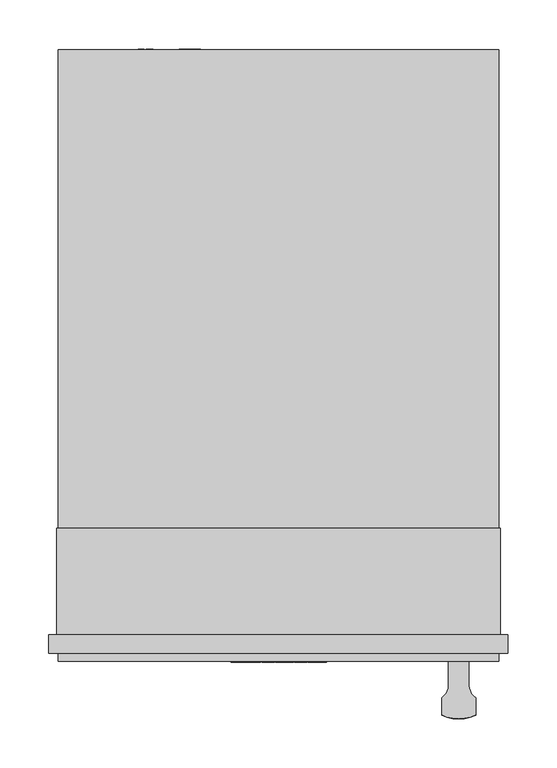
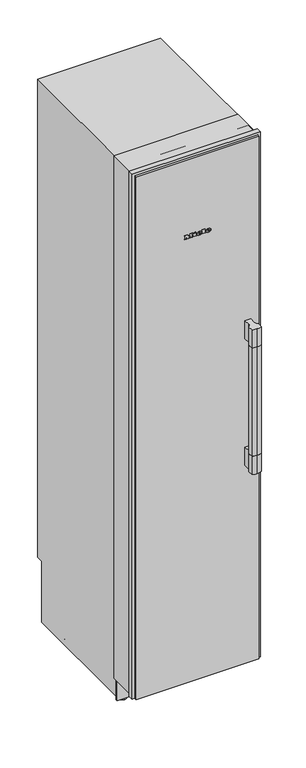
"""IFC4 building model written with IfcOpenShell, lengths in millimetres: proxy geometry, 11503310_USA_F2412SF : 37241211_USA_11503310_F2412SF."""

from ifc_helpers import new_model, si_unit, point, frame, frame_2d, origin, place, context, project, spatial, polyline, circle_curve, ellipse_curve, trimmed, segment, composite_curve, outline, extrude, faceted_brep, source, transform, mapped, element, save
from ifc_brep_helpers import plane_surface, cylinder_surface, revolved_surface, extruded_surface, advanced_brep


def specialty_equipment_9d6fc806(model_context):
    return source(origin(), model_context, "Body", "SolidModel", [
        extrude(outline(polyline([(-214.5, 68.0), (214.5, 68.0), (214.5, 21.0), (-214.5, 21.0), (-214.5, 68.0)])), frame((0.0, 0.0, 265.0), z_axis=(0.0, 0.0, 1.0), x_axis=(1.0, 0.0, 0.0)), (0.0, 0.0, 1.0), 1771.0),
        extrude(outline(polyline([(-61.0, 50.0), (61.0, 50.0), (61.0, 21.0), (-61.0, 21.0), (-61.0, 50.0)])), frame((0.0, 0.0, 2036.0), z_axis=(0.0, 0.0, 1.0), x_axis=(1.0, 0.0, 0.0)), (0.0, 0.0, 1.0), 56.0),
        extrude(outline(polyline([(265.0, 21.0), (265.0, 0.0), (265.0, -21.0), (224.0, -21.0), (224.0, -6.5), (99.0, -6.5), (99.0, 0.0), (99.0, 6.5), (224.0, 6.5), (224.0, 21.0), (265.0, 21.0)])), frame((0.0, 21.0, 0.0), z_axis=(0.0, 1.0, 0.0), x_axis=(0.0, 0.0, 1.0)), (0.0, 0.0, 1.0), 54.0),
        extrude(outline(composite_curve([segment(trimmed(circle_curve(frame_2d((158.4285714, -24.4390599)), 15.5714286), [point((167.0, -37.4390599))], [point((174.0, -24.4390599))], True, "CARTESIAN"), True, "CONTINUOUS"), segment(polyline([(174.0, -24.4390599), (174.0, 0.0), (195.0, 0.0), (195.0, -24.4390599)]), True, "CONTINUOUS"), segment(trimmed(circle_curve(frame_2d((210.5714286, -24.4390599)), 15.5714286), [point((195.0, -24.4390599))], [point((202.0, -37.4390599))], True, "CARTESIAN"), True, "CONTINUOUS"), segment(polyline([(202.0, -37.4390599), (202.0, -55.0)]), True, "CONTINUOUS"), segment(trimmed(circle_curve(frame_2d((184.5, -18.71875)), 40.28125), [point((202.0, -55.0))], [point((184.5, -59.0))], False, "CARTESIAN"), True, "CONTINUOUS"), segment(trimmed(circle_curve(frame_2d((184.5, -18.71875)), 40.28125), [point((184.5, -59.0))], [point((167.0, -55.0))], False, "CARTESIAN"), True, "CONTINUOUS"), segment(polyline([(167.0, -55.0), (167.0, -37.4390599)]), True, "CONTINUOUS")], self_intersect=False)), frame((0.0, 0.0, 858.0), z_axis=(0.0, 0.0, 1.0), x_axis=(1.0, 0.0, 0.0)), (0.0, 0.0, 1.0), 70.0),
        extrude(outline(composite_curve([segment(trimmed(circle_curve(frame_2d((158.4285714, -24.4390599)), 15.5714286), [point((167.0, -37.4390599))], [point((174.0, -24.4390599))], True, "CARTESIAN"), True, "CONTINUOUS"), segment(polyline([(174.0, -24.4390599), (174.0, 0.0), (195.0, 0.0), (195.0, -24.4390599)]), True, "CONTINUOUS"), segment(trimmed(circle_curve(frame_2d((210.5714286, -24.4390599)), 15.5714286), [point((195.0, -24.4390599))], [point((202.0, -37.4390599))], True, "CARTESIAN"), True, "CONTINUOUS"), segment(polyline([(202.0, -37.4390599), (202.0, -55.0)]), True, "CONTINUOUS"), segment(trimmed(circle_curve(frame_2d((184.5, -18.71875)), 40.28125), [point((202.0, -55.0))], [point((184.5, -59.0))], False, "CARTESIAN"), True, "CONTINUOUS"), segment(trimmed(circle_curve(frame_2d((184.5, -18.71875)), 40.28125), [point((184.5, -59.0))], [point((167.0, -55.0))], False, "CARTESIAN"), True, "CONTINUOUS"), segment(polyline([(167.0, -55.0), (167.0, -37.4390599)]), True, "CONTINUOUS")], self_intersect=False)), frame((0.0, 0.0, 1348.0), z_axis=(0.0, 0.0, 1.0), x_axis=(1.0, 0.0, 0.0)), (0.0, 0.0, 1.0), 70.0),
        extrude(outline(composite_curve([segment(trimmed(circle_curve(frame_2d((158.4285714, -24.4390599)), 15.5714286), [point((167.0, -37.4390599))], [point((168.8599688, -36.0))], True, "CARTESIAN"), True, "CONTINUOUS"), segment(polyline([(168.8599688, -36.0), (200.1400312, -36.0)]), True, "CONTINUOUS"), segment(trimmed(circle_curve(frame_2d((210.5714286, -24.4390599)), 15.5714286), [point((200.1400312, -36.0))], [point((202.0, -37.4390599))], True, "CARTESIAN"), True, "CONTINUOUS"), segment(polyline([(202.0, -37.4390599), (202.0, -55.0)]), True, "CONTINUOUS"), segment(trimmed(circle_curve(frame_2d((184.5, -18.71875)), 40.28125), [point((202.0, -55.0))], [point((184.5, -59.0))], False, "CARTESIAN"), True, "CONTINUOUS"), segment(trimmed(circle_curve(frame_2d((184.5, -18.71875)), 40.28125), [point((184.5, -59.0))], [point((167.0, -55.0))], False, "CARTESIAN"), True, "CONTINUOUS"), segment(polyline([(167.0, -55.0), (167.0, -37.4390599)]), True, "CONTINUOUS")], self_intersect=False)), frame((0.0, 0.0, 928.0), z_axis=(0.0, 0.0, 1.0), x_axis=(1.0, 0.0, 0.0)), (0.0, 0.0, 1.0), 420.0),
        extrude(outline(polyline([(-225.5, 21.0), (225.5, 21.0), (225.5, 0.0), (-225.5, 0.0), (-225.5, 21.0)])), frame((0.0, 0.0, 90.0), z_axis=(0.0, 0.0, 1.0), x_axis=(1.0, 0.0, 0.0)), (0.0, 0.0, 1.0), 2023.0),
        advanced_brep(
        [(38.22, -1.0, 1812.792), (38.22, -1.0, 1814.408), (48.924, -1.0, 1814.408), (30.3, -1.0, 1814.408), (34.7, -1.0, 1809.0), (48.652, -1.0, 1812.792), (43.82, -1.0, 1812.792), (40.012, -1.0, 1811.0), (38.22, -1.0, 1816.456), (38.22, -1.0, 1818.2), (40.956, -1.0, 1818.2), (40.956, -1.0, 1816.456), (38.22, 0.0, 1812.792), (40.012, 0.0, 1811.0), (43.82, 0.0, 1812.792), (48.652, 0.0, 1812.792), (34.7, 0.0, 1809.0), (30.3, 0.0, 1814.408), (48.924, 0.0, 1814.408), (38.22, 0.0, 1814.408), (38.22, 0.0, 1816.456), (40.956, 0.0, 1816.456), (40.956, 0.0, 1818.2), (38.22, 0.0, 1818.2)],
        [
            (0, 1),
            (1, 2),
            (2, 3, ellipse_curve(frame((39.612, -1.0, 1814.408), z_axis=(0.0, -1.0, 0.0), x_axis=(-1.0, 0.0, 0.0)), 9.312, 7.696)),
            (3, 4, circle_curve(frame((36.4920873, -1.0, 1814.952), z_axis=(0.0, -1.0, 0.0), x_axis=(0.0, 0.0, -1.0)), 6.2159376)),
            (4, 5, circle_curve(frame((39.4255872, -1.0, 1819.176), z_axis=(0.0, -1.0, 0.0), x_axis=(0.0, 0.0, -1.0)), 11.2197215)),
            (5, 6),
            (6, 7, circle_curve(frame((40.7941176, -1.0, 1814.28), z_axis=(0.0, 1.0, 0.0), x_axis=(0.0, 0.0, -1.0)), 3.3719591)),
            (7, 0, circle_curve(frame((40.012, -1.0, 1812.792), z_axis=(0.0, 1.0, 0.0), x_axis=(0.0, 0.0, -1.0)), 1.792)),
            (8, 9),
            (9, 10, circle_curve(frame((39.588, -1.0, 1818.2), z_axis=(0.0, 1.0, 0.0), x_axis=(0.0, 0.0, -1.0)), 1.368)),
            (10, 11),
            (11, 8),
            (12, 13, circle_curve(frame((40.012, 0.0, 1812.792), z_axis=(0.0, -1.0, 0.0), x_axis=(0.0, 0.0, -1.0)), 1.792)),
            (13, 14, circle_curve(frame((40.7941176, 0.0, 1814.28), z_axis=(0.0, -1.0, 0.0), x_axis=(0.0, 0.0, -1.0)), 3.3719591)),
            (14, 15),
            (15, 16, circle_curve(frame((39.4255872, 0.0, 1819.176), z_axis=(0.0, 1.0, 0.0), x_axis=(0.0, 0.0, -1.0)), 11.2197215)),
            (16, 17, circle_curve(frame((36.4920873, 0.0, 1814.952), z_axis=(0.0, 1.0, 0.0), x_axis=(0.0, 0.0, -1.0)), 6.2159376)),
            (17, 18, ellipse_curve(frame((39.612, 0.0, 1814.408), z_axis=(0.0, 1.0, 0.0), x_axis=(-1.0, 0.0, 0.0)), 9.312, 7.696)),
            (18, 19),
            (19, 12),
            (20, 21),
            (21, 22),
            (22, 23, circle_curve(frame((39.588, 0.0, 1818.2), z_axis=(0.0, -1.0, 0.0), x_axis=(0.0, 0.0, -1.0)), 1.368)),
            (23, 20),
            (0, 12),
            (19, 1),
            (18, 2),
            (5, 15),
            (14, 6),
            (17, 3),
            (13, 7),
            (16, 4),
            (8, 20),
            (23, 9),
            (22, 10),
            (21, 11),
        ],
        [
            plane_surface(frame((38.22, -1.0, 1814.408), z_axis=(0.0, -1.0, 0.0), x_axis=(0.0, 0.0, 1.0))),
            plane_surface(frame((38.22, 0.0, 1814.408), z_axis=(0.0, 1.0, 0.0), x_axis=(0.0, 0.0, -1.0))),
            plane_surface(frame((38.22, -1.0, 1812.792), z_axis=(1.0, 0.0, 0.0), x_axis=(0.0, 1.0, 0.0))),
            plane_surface(frame((38.22, -1.0, 1814.408), z_axis=(0.0, 0.0, -1.0), x_axis=(0.0, 1.0, 0.0))),
            plane_surface(frame((48.652, -1.0, 1812.792), z_axis=(0.0, 0.0, 1.0), x_axis=(0.0, 1.0, 0.0))),
            extruded_surface(trimmed(ellipse_curve(frame((39.612, 1.0, 1814.408), z_axis=(0.0, -1.0, 0.0), x_axis=(-1.0, 0.0, 0.0)), 9.312, 7.696), [point((48.924, 1.0, 1814.408))], [point((30.3, 1.0, 1814.408))], True, "CARTESIAN"), (0.0, -1.0, 0.0), 1.0),
            revolved_surface(polyline([(40.7941176, 0.0, 1810.9080409), (40.7941176, -1.0, 1810.9080409)]), (40.7941176, 0.0, 1814.28), (0.0, 1.0, 0.0)),
            revolved_surface(polyline([(40.012, 0.0, 1811.0), (40.012, -1.0, 1811.0)]), (40.012, 0.0, 1812.792), (0.0, 1.0, 0.0)),
            cylinder_surface(frame((36.4920873, 0.0, 1814.952), z_axis=(0.0, -1.0, 0.0), x_axis=(0.0, 0.0, -1.0)), 6.2159376),
            cylinder_surface(frame((39.4255872, 0.0, 1819.176), z_axis=(0.0, -1.0, 0.0), x_axis=(0.0, 0.0, -1.0)), 11.2197215),
            plane_surface(frame((38.22, -1.0, 1816.456), z_axis=(1.0, 0.0, 0.0), x_axis=(0.0, 1.0, 0.0))),
            revolved_surface(polyline([(39.588, 0.0, 1816.832), (39.588, -1.0, 1816.832)]), (39.588, 0.0, 1818.2), (0.0, 1.0, 0.0)),
            plane_surface(frame((40.956, -1.0, 1818.2), z_axis=(-1.0, 0.0, 0.0), x_axis=(0.0, 1.0, 0.0))),
            plane_surface(frame((40.956, -1.0, 1816.456), z_axis=(0.0, 0.0, 1.0), x_axis=(0.0, 1.0, 0.0))),
        ],
        [
            (0, [[1, 2, 3, 4, 5, 6, 7, 8], [9, 10, 11, 12]]),
            (1, [[13, 14, 15, 16, 17, 18, 19, 20], [21, 22, 23, 24]]),
            (2, [[-1, 25, -20, 26]]),
            (3, [[-2, -26, -19, 27]]),
            (4, [[-6, 28, -15, 29]]),
            (5, [[-3, -27, -18, 30]]),
            (6, [[-7, -29, -14, 31]]),
            (7, [[-8, -31, -13, -25]]),
            (8, [[-4, -30, -17, 32]]),
            (9, [[-5, -32, -16, -28]]),
            (10, [[-9, 33, -24, 34]]),
            (11, [[-10, -34, -23, 35]]),
            (12, [[-11, -35, -22, 36]]),
            (13, [[-12, -36, -21, -33]]),
        ],
    ),
        advanced_brep(
        [(4.828, -1.0, 1812.792), (4.828, -1.0, 1814.408), (15.532, -1.0, 1814.408), (-3.092, -1.0, 1814.408), (1.308, -1.0, 1809.0), (15.26, -1.0, 1812.792), (10.428, -1.0, 1812.792), (6.62, -1.0, 1811.0), (4.828, -1.0, 1816.456), (4.828, -1.0, 1818.2), (7.564, -1.0, 1818.2), (7.564, -1.0, 1816.456), (4.828, 0.0, 1812.792), (6.62, 0.0, 1811.0), (10.428, 0.0, 1812.792), (15.26, 0.0, 1812.792), (1.308, 0.0, 1809.0), (-3.092, 0.0, 1814.408), (15.532, 0.0, 1814.408), (4.828, 0.0, 1814.408), (4.828, 0.0, 1816.456), (7.564, 0.0, 1816.456), (7.564, 0.0, 1818.2), (4.828, 0.0, 1818.2)],
        [
            (0, 1),
            (1, 2),
            (2, 3, ellipse_curve(frame((6.22, -1.0, 1814.408), z_axis=(0.0, -1.0, 0.0), x_axis=(-1.0, 0.0, 0.0)), 9.312, 7.696)),
            (3, 4, circle_curve(frame((3.1000873, -1.0, 1814.952), z_axis=(0.0, -1.0, 0.0), x_axis=(0.0, 0.0, -1.0)), 6.2159376)),
            (4, 5, circle_curve(frame((6.0335872, -1.0, 1819.176), z_axis=(0.0, -1.0, 0.0), x_axis=(0.0, 0.0, -1.0)), 11.2197215)),
            (5, 6),
            (6, 7, circle_curve(frame((7.4021176, -1.0, 1814.28), z_axis=(0.0, 1.0, 0.0), x_axis=(0.0, 0.0, -1.0)), 3.3719591)),
            (7, 0, circle_curve(frame((6.62, -1.0, 1812.792), z_axis=(0.0, 1.0, 0.0), x_axis=(0.0, 0.0, -1.0)), 1.792)),
            (8, 9),
            (9, 10, circle_curve(frame((6.196, -1.0, 1818.2), z_axis=(0.0, 1.0, 0.0), x_axis=(0.0, 0.0, -1.0)), 1.368)),
            (10, 11),
            (11, 8),
            (12, 13, circle_curve(frame((6.62, 0.0, 1812.792), z_axis=(0.0, -1.0, 0.0), x_axis=(0.0, 0.0, -1.0)), 1.792)),
            (13, 14, circle_curve(frame((7.4021176, 0.0, 1814.28), z_axis=(0.0, -1.0, 0.0), x_axis=(0.0, 0.0, -1.0)), 3.3719591)),
            (14, 15),
            (15, 16, circle_curve(frame((6.0335872, 0.0, 1819.176), z_axis=(0.0, 1.0, 0.0), x_axis=(0.0, 0.0, -1.0)), 11.2197215)),
            (16, 17, circle_curve(frame((3.1000873, 0.0, 1814.952), z_axis=(0.0, 1.0, 0.0), x_axis=(0.0, 0.0, -1.0)), 6.2159376)),
            (17, 18, ellipse_curve(frame((6.22, 0.0, 1814.408), z_axis=(0.0, 1.0, 0.0), x_axis=(-1.0, 0.0, 0.0)), 9.312, 7.696)),
            (18, 19),
            (19, 12),
            (20, 21),
            (21, 22),
            (22, 23, circle_curve(frame((6.196, 0.0, 1818.2), z_axis=(0.0, -1.0, 0.0), x_axis=(0.0, 0.0, -1.0)), 1.368)),
            (23, 20),
            (0, 12),
            (19, 1),
            (18, 2),
            (5, 15),
            (14, 6),
            (17, 3),
            (13, 7),
            (16, 4),
            (8, 20),
            (23, 9),
            (22, 10),
            (21, 11),
        ],
        [
            plane_surface(frame((4.828, -1.0, 1814.408), z_axis=(0.0, -1.0, 0.0), x_axis=(0.0, 0.0, 1.0))),
            plane_surface(frame((4.828, 0.0, 1814.408), z_axis=(0.0, 1.0, 0.0), x_axis=(0.0, 0.0, -1.0))),
            plane_surface(frame((4.828, -1.0, 1812.792), z_axis=(1.0, 0.0, 0.0), x_axis=(0.0, 1.0, 0.0))),
            plane_surface(frame((4.828, -1.0, 1814.408), z_axis=(0.0, 0.0, -1.0), x_axis=(0.0, 1.0, 0.0))),
            plane_surface(frame((15.26, -1.0, 1812.792), z_axis=(0.0, 0.0, 1.0), x_axis=(0.0, 1.0, 0.0))),
            extruded_surface(trimmed(ellipse_curve(frame((6.22, 1.0, 1814.408), z_axis=(0.0, -1.0, 0.0), x_axis=(-1.0, 0.0, 0.0)), 9.312, 7.696), [point((15.532, 1.0, 1814.408))], [point((-3.092, 1.0, 1814.408))], True, "CARTESIAN"), (0.0, -1.0, 0.0), 1.0),
            revolved_surface(polyline([(7.4021176, 0.0, 1810.9080409), (7.4021176, -1.0, 1810.9080409)]), (7.4021176, 0.0, 1814.28), (0.0, 1.0, 0.0)),
            revolved_surface(polyline([(6.62, 0.0, 1811.0), (6.62, -1.0, 1811.0)]), (6.62, 0.0, 1812.792), (0.0, 1.0, 0.0)),
            cylinder_surface(frame((3.1000873, 0.0, 1814.952), z_axis=(0.0, -1.0, 0.0), x_axis=(0.0, 0.0, -1.0)), 6.2159376),
            cylinder_surface(frame((6.0335872, 0.0, 1819.176), z_axis=(0.0, -1.0, 0.0), x_axis=(0.0, 0.0, -1.0)), 11.2197215),
            plane_surface(frame((4.828, -1.0, 1816.456), z_axis=(1.0, 0.0, 0.0), x_axis=(0.0, 1.0, 0.0))),
            revolved_surface(polyline([(6.196, 0.0, 1816.832), (6.196, -1.0, 1816.832)]), (6.196, 0.0, 1818.2), (0.0, 1.0, 0.0)),
            plane_surface(frame((7.564, -1.0, 1818.2), z_axis=(-1.0, 0.0, 0.0), x_axis=(0.0, 1.0, 0.0))),
            plane_surface(frame((7.564, -1.0, 1816.456), z_axis=(0.0, 0.0, 1.0), x_axis=(0.0, 1.0, 0.0))),
        ],
        [
            (0, [[1, 2, 3, 4, 5, 6, 7, 8], [9, 10, 11, 12]]),
            (1, [[13, 14, 15, 16, 17, 18, 19, 20], [21, 22, 23, 24]]),
            (2, [[-1, 25, -20, 26]]),
            (3, [[-2, -26, -19, 27]]),
            (4, [[-6, 28, -15, 29]]),
            (5, [[-3, -27, -18, 30]]),
            (6, [[-7, -29, -14, 31]]),
            (7, [[-8, -31, -13, -25]]),
            (8, [[-4, -30, -17, 32]]),
            (9, [[-5, -32, -16, -28]]),
            (10, [[-9, 33, -24, 34]]),
            (11, [[-10, -34, -23, 35]]),
            (12, [[-11, -35, -22, 36]]),
            (13, [[-12, -36, -21, -33]]),
        ],
    ),
        extrude(outline(polyline([(1824.056, -12.66), (1821.464, -11.444), (1823.992, -6.02), (1826.584, -7.22), (1824.056, -12.66)])), frame((0.0, -1.0, 0.0), z_axis=(0.0, 1.0, 0.0), x_axis=(0.0, 0.0, 1.0)), (0.0, 0.0, 1.0), 1.0),
        extrude(outline(polyline([(1821.112, -16.612), (1818.248, -16.612), (1818.248, -14.708), (1811.688, -14.708), (1811.688, -16.612), (1809.0, -16.612), (1809.0, -3.988), (1811.688, -3.988), (1811.688, -5.844), (1821.112, -5.844), (1821.112, -16.612)])), frame((0.0, -1.0, 0.0), z_axis=(0.0, 1.0, 0.0), x_axis=(0.0, 0.0, 1.0)), (0.0, 0.0, 1.0), 1.0),
        extrude(outline(polyline([(1822.392, 16.428), (1822.392, 18.348), (1811.688, 18.348), (1811.688, 16.428), (1809.0, 16.428), (1809.0, 29.404), (1811.688, 29.404), (1811.688, 27.436), (1825.0, 27.436), (1825.0, 16.428), (1822.392, 16.428)])), frame((0.0, -1.0, 0.0), z_axis=(0.0, 1.0, 0.0), x_axis=(0.0, 0.0, 1.0)), (0.0, 0.0, 1.0), 1.0),
        extrude(outline(polyline([(1822.392, -48.5), (1822.392, -46.564), (1811.688, -46.564), (1811.688, -48.5), (1809.0, -48.5), (1809.0, -41.46), (1811.688, -41.46), (1811.688, -43.38), (1818.4431247, -43.38), (1809.0, -36.228), (1818.8152223, -29.044), (1811.688, -29.044), (1811.688, -31.012), (1809.0, -31.012), (1809.0, -18.244), (1811.688, -18.244), (1811.688, -20.276), (1822.392, -20.276), (1822.392, -18.244), (1825.0, -18.244), (1825.0, -27.988), (1819.0, -32.66), (1825.0, -37.348), (1825.0, -48.5), (1822.392, -48.5)])), frame((0.0, -1.0, 0.0), z_axis=(0.0, 1.0, 0.0), x_axis=(0.0, 0.0, 1.0)), (0.0, 0.0, 1.0), 1.0),
        extrude(outline(polyline([(540.0, 1998.0), (540.0, 1791.0), (471.0, 1791.0), (443.0, 1867.0), (222.7448904, 1867.0), (178.0, 1939.0), (108.0, 1949.0), (108.0, 1998.0), (540.0, 1998.0)])), frame((-179.5, 0.0, 0.0), z_axis=(1.0, 0.0, 0.0), x_axis=(0.0, 1.0, 0.0)), (0.0, 0.0, 1.0), 359.0),
        extrude(outline(polyline([(217.9886114, 1875.0), (216.809433, 1875.0), (179.6921935, 1934.4), (180.8713719, 1934.4), (217.9886114, 1875.0)])), frame((-69.0, 0.0, 0.0), z_axis=(1.0, 0.0, 0.0), x_axis=(0.0, 1.0, 0.0)), (0.0, 0.0, 1.0), 138.0),
        extrude(outline(polyline([(46.0510837, -89.101717), (37.4134902, -91.1745179), (46.0453554, -93.6868463), (46.0453554, -95.5601414), (37.4089549, -98.0799633), (46.0493903, -100.1581876), (46.0493903, -101.4649805), (36.0005458, -98.7156324), (36.0005458, -97.372208), (44.8261022, -94.6342221), (35.9987467, -92.0620509), (35.9987287, -90.5451466), (46.0510837, -87.800191), (46.0510837, -89.101717)])), frame((0.0, 625.0, 0.0), z_axis=(0.0, 1.0, 0.0), x_axis=(0.0, 0.0, 1.0)), (0.0, 0.0, 1.0), 1.0),
        extrude(outline(polyline([(46.0485238, -80.7401503), (41.1363122, -80.7401503), (46.0468162, -85.884602), (46.0468162, -87.6328316), (41.9156889, -83.3260313), (36.000035, -87.8032231), (36.000035, -86.2795519), (41.0742849, -82.4391666), (39.4525334, -80.7395503), (35.9999292, -80.7395503), (35.9999292, -79.4795491), (46.0485238, -79.4795491), (46.0485238, -80.7401503)])), frame((0.0, 625.0, 0.0), z_axis=(0.0, 1.0, 0.0), x_axis=(0.0, 0.0, 1.0)), (0.0, 0.0, 1.0), 1.0),
        extrude(outline(composite_curve([segment(trimmed(circle_curve(frame_2d((41.0, -90.0)), 7.5), [point((33.5, -90.0))], [point((48.5, -90.0))], False, "CARTESIAN"), True, "CONTINUOUS"), segment(trimmed(circle_curve(frame_2d((41.0, -90.0)), 7.5), [point((48.5, -90.0))], [point((33.5, -90.0))], False, "CARTESIAN"), True, "CONTINUOUS")], self_intersect=False)), frame((0.0, 598.0, 0.0), z_axis=(0.0, 1.0, 0.0), x_axis=(0.0, 0.0, 1.0)), (0.0, 0.0, 1.0), 27.0),
        extrude(outline(polyline([(2095.0, -219.0), (2047.0, -219.0), (2047.0, -185.0), (2036.5, -185.0), (2036.5, -70.0), (2047.0, -70.0), (2047.0, -64.0), (2095.0, -64.0), (2095.0, -219.0)])), frame((0.0, 21.0, 0.0), z_axis=(0.0, 1.0, 0.0), x_axis=(0.0, 0.0, 1.0)), (0.0, 0.0, 1.0), 47.0),
        extrude(outline(polyline([(254.0, -219.0), (206.0, -219.0), (206.0, -64.0), (254.0, -64.0), (254.0, -70.0), (264.0, -70.0), (264.0, -185.0), (254.0, -185.0), (254.0, -219.0)])), frame((0.0, 21.0, 0.0), z_axis=(0.0, 1.0, 0.0), x_axis=(0.0, 0.0, 1.0)), (0.0, 0.0, 1.0), 54.0),
        extrude(outline(polyline([(99.0373308, -135.2645771), (97.7615342, -135.2645771), (97.7615342, -129.3195541), (94.7968516, -129.3195541), (94.7968516, -134.969579), (93.5246295, -134.969579), (93.5246295, -129.3415693), (90.2570046, -129.3415693), (90.2570046, -135.4619689), (88.9546219, -135.4619689), (88.9546219, -128.0443524), (99.0373308, -128.0443524), (99.0373308, -135.2645771)])), frame((0.0, 625.0, 0.0), z_axis=(0.0, 1.0, 0.0), x_axis=(0.0, 0.0, 1.0)), (0.0, 0.0, 1.0), 1.0),
        extrude(outline(polyline([(99.0458, -138.5619704), (90.2663944, -138.5619704), (90.2663944, -143.6145879), (89.0134802, -143.6145879), (89.0134802, -137.3423809), (99.0458, -137.3423809), (99.0458, -138.5619704)])), frame((0.0, 625.0, 0.0), z_axis=(0.0, 1.0, 0.0), x_axis=(0.0, 0.0, 1.0)), (0.0, 0.0, 1.0), 1.0),
        extrude(outline(composite_curve([segment(trimmed(circle_curve(frame_2d((94.0, -135.5)), 7.5), [point((86.5, -135.5))], [point((101.5, -135.5))], False, "CARTESIAN"), True, "CONTINUOUS"), segment(trimmed(circle_curve(frame_2d((94.0, -135.5)), 7.5), [point((101.5, -135.5))], [point((86.5, -135.5))], False, "CARTESIAN"), True, "CONTINUOUS")], self_intersect=False)), frame((0.0, 598.0, 0.0), z_axis=(0.0, 1.0, 0.0), x_axis=(0.0, 0.0, 1.0)), (0.0, 0.0, 1.0), 27.0),
        extrude(outline(polyline([(-225.5, 125.0), (225.5, 125.0), (225.5, 120.0), (-225.5, 120.0), (-225.5, 125.0)])), frame((0.0, 0.0, 14.0), z_axis=(0.0, 0.0, 1.0), x_axis=(1.0, 0.0, 0.0)), (0.0, 0.0, 1.0), 83.0),
        advanced_brep(
        [(-191.5, 160.0, 0.0), (-191.5, 130.0, 0.0), (-191.5, 160.0, 7.0), (-191.5, 130.0, 7.0), (-191.5, 149.7, 7.0), (-191.5, 140.3, 7.0), (-191.5, 149.7, 28.0), (-191.5, 140.3, 28.0)],
        [
            (0, 1, circle_curve(frame((-191.5, 145.0, 0.0), z_axis=(0.0, 0.0, -1.0), x_axis=(1.0, 0.0, 0.0)), 15.0)),
            (1, 0, circle_curve(frame((-191.5, 145.0, 0.0), z_axis=(0.0, 0.0, -1.0), x_axis=(1.0, 0.0, 0.0)), 15.0)),
            (2, 3, circle_curve(frame((-191.5, 145.0, 7.0), z_axis=(0.0, 0.0, 1.0), x_axis=(1.0, 0.0, 0.0)), 15.0)),
            (3, 2, circle_curve(frame((-191.5, 145.0, 7.0), z_axis=(0.0, 0.0, 1.0), x_axis=(1.0, 0.0, 0.0)), 15.0)),
            (4, 5, circle_curve(frame((-191.5, 145.0, 7.0), z_axis=(0.0, 0.0, -1.0), x_axis=(0.0, -1.0, 0.0)), 4.7)),
            (5, 4, circle_curve(frame((-191.5, 145.0, 7.0), z_axis=(0.0, 0.0, -1.0), x_axis=(0.0, -1.0, 0.0)), 4.7)),
            (0, 2),
            (3, 1),
            (6, 7, circle_curve(frame((-191.5, 145.0, 28.0), z_axis=(0.0, 0.0, 1.0), x_axis=(0.0, -1.0, 0.0)), 4.7)),
            (7, 6, circle_curve(frame((-191.5, 145.0, 28.0), z_axis=(0.0, 0.0, 1.0), x_axis=(0.0, -1.0, 0.0)), 4.7)),
            (7, 5),
            (4, 6),
        ],
        [
            plane_surface(frame((-176.5, 145.0, 0.0), z_axis=(0.0, 0.0, -1.0), x_axis=(0.0, -1.0, 0.0))),
            plane_surface(frame((-176.5, 145.0, 7.0), z_axis=(0.0, 0.0, 1.0), x_axis=(0.0, 1.0, 0.0))),
            cylinder_surface(frame((-191.5, 145.0, 7.0), z_axis=(0.0, 0.0, -1.0), x_axis=(1.0, 0.0, 0.0)), 15.0),
            plane_surface(frame((-191.5, 140.3, 28.0), z_axis=(0.0, 0.0, 1.0), x_axis=(1.0, 0.0, 0.0))),
            cylinder_surface(frame((-191.5, 145.0, 28.0), z_axis=(0.0, 0.0, -1.0), x_axis=(0.0, -1.0, 0.0)), 4.7),
        ],
        [
            (0, [[1, 2]]),
            (1, [[3, 4], [5, 6]]),
            (2, [[-1, 7, -4, 8]]),
            (2, [[-2, -8, -3, -7]]),
            (3, [[9, 10]]),
            (4, [[-10, 11, -5, 12]]),
            (4, [[-9, -12, -6, -11]]),
        ],
    ),
        advanced_brep(
        [(191.5, 160.0, 0.0), (191.5, 130.0, 0.0), (191.5, 160.0, 7.0), (191.5, 130.0, 7.0), (191.5, 149.7, 7.0), (191.5, 140.3, 7.0), (191.5, 149.7, 28.0), (191.5, 140.3, 28.0)],
        [
            (0, 1, circle_curve(frame((191.5, 145.0, 0.0), z_axis=(0.0, 0.0, -1.0), x_axis=(1.0, 0.0, 0.0)), 15.0)),
            (1, 0, circle_curve(frame((191.5, 145.0, 0.0), z_axis=(0.0, 0.0, -1.0), x_axis=(1.0, 0.0, 0.0)), 15.0)),
            (2, 3, circle_curve(frame((191.5, 145.0, 7.0), z_axis=(0.0, 0.0, 1.0), x_axis=(1.0, 0.0, 0.0)), 15.0)),
            (3, 2, circle_curve(frame((191.5, 145.0, 7.0), z_axis=(0.0, 0.0, 1.0), x_axis=(1.0, 0.0, 0.0)), 15.0)),
            (4, 5, circle_curve(frame((191.5, 145.0, 7.0), z_axis=(0.0, 0.0, -1.0), x_axis=(0.0, -1.0, 0.0)), 4.7)),
            (5, 4, circle_curve(frame((191.5, 145.0, 7.0), z_axis=(0.0, 0.0, -1.0), x_axis=(0.0, -1.0, 0.0)), 4.7)),
            (0, 2),
            (3, 1),
            (6, 7, circle_curve(frame((191.5, 145.0, 28.0), z_axis=(0.0, 0.0, 1.0), x_axis=(0.0, -1.0, 0.0)), 4.7)),
            (7, 6, circle_curve(frame((191.5, 145.0, 28.0), z_axis=(0.0, 0.0, 1.0), x_axis=(0.0, -1.0, 0.0)), 4.7)),
            (7, 5),
            (4, 6),
        ],
        [
            plane_surface(frame((-176.5, 145.0, 0.0), z_axis=(0.0, 0.0, -1.0), x_axis=(0.0, -1.0, 0.0))),
            plane_surface(frame((-176.5, 145.0, 7.0), z_axis=(0.0, 0.0, 1.0), x_axis=(0.0, 1.0, 0.0))),
            cylinder_surface(frame((191.5, 145.0, 7.0), z_axis=(0.0, 0.0, -1.0), x_axis=(1.0, 0.0, 0.0)), 15.0),
            plane_surface(frame((-191.5, 140.3, 28.0), z_axis=(0.0, 0.0, 1.0), x_axis=(1.0, 0.0, 0.0))),
            cylinder_surface(frame((191.5, 145.0, 28.0), z_axis=(0.0, 0.0, -1.0), x_axis=(0.0, -1.0, 0.0)), 4.7),
        ],
        [
            (0, [[1, 2]]),
            (1, [[3, 4], [5, 6]]),
            (2, [[-1, 7, -4, 8]]),
            (2, [[-2, -8, -3, -7]]),
            (3, [[9, 10]]),
            (4, [[-10, 11, -5, 12]]),
            (4, [[-9, -12, -6, -11]]),
        ],
    ),
        advanced_brep(
        [(225.5, 68.0, 2114.0), (225.5, 68.0, 267.0), (225.5, 75.0, 267.0), (225.5, 75.0, 97.0), (225.5, 125.0, 97.0), (225.5, 125.0, 28.0), (225.5, 598.0, 28.0), (225.5, 598.0, 263.0), (225.5, 625.0, 263.0), (225.5, 625.0, 2114.0), (-225.5, 68.0, 2114.0), (-225.5, 625.0, 2114.0), (-225.5, 625.0, 263.0), (-225.5, 598.0, 263.0), (-225.5, 598.0, 28.0), (-225.5, 125.0, 28.0), (-225.5, 125.0, 97.0), (-225.5, 75.0, 97.0), (-225.5, 75.0, 267.0), (-225.5, 68.0, 267.0), (165.5, 598.0, 28.0), (165.5, 598.0, 14.0), (-165.5, 598.0, 14.0), (-165.5, 598.0, 28.0), (165.5, 125.0, 14.0), (-165.5, 125.0, 14.0), (-165.5, 125.0, 28.0), (165.5, 125.0, 28.0), (179.5, 68.0, 1998.0), (179.5, 68.0, 343.0), (-179.5, 68.0, 343.0), (-179.5, 68.0, 1998.0), (179.5, 540.0, 1998.0), (-179.5, 540.0, 1998.0), (-179.5, 540.0, 343.0), (179.5, 540.0, 343.0), (-184.0, 223.8193473, 28.0), (-203.0, 223.8193473, 28.0), (-203.0, 174.1806527, 28.0), (-184.0, 174.1806527, 28.0), (-203.5, 546.8193473, 28.0), (-203.5, 497.1806527, 28.0), (-187.5, 497.1806527, 28.0), (-187.5, 546.8193473, 28.0), (203.0, 174.1806527, 28.0), (203.0, 223.8193473, 28.0), (184.0, 223.8193473, 28.0), (184.0, 174.1806527, 28.0), (187.5, 546.8193473, 28.0), (187.5, 497.1806527, 28.0), (203.5, 497.1806527, 28.0), (203.5, 546.8193473, 28.0), (-184.0, 224.0, 25.0), (-184.0, 174.0, 25.0), (-203.0, 174.0, 25.0), (-203.0, 224.0, 25.0), (-184.0, 199.0, 25.0), (-203.0, 199.0, 25.0), (203.0, 199.0, 25.0), (203.0, 174.0, 25.0), (203.0, 224.0, 25.0), (184.0, 224.0, 25.0), (184.0, 174.0, 25.0), (184.0, 199.0, 25.0), (-203.5, 547.0, 25.0), (-203.5, 497.0, 25.0), (-203.5, 522.0, 25.0), (-187.5, 547.0, 25.0), (-187.5, 497.0, 25.0), (-187.5, 522.0, 25.0), (187.5, 547.0, 25.0), (187.5, 497.0, 25.0), (187.5, 522.0, 25.0), (203.5, 547.0, 25.0), (203.5, 497.0, 25.0), (203.5, 522.0, 25.0)],
        [
            (0, 1),
            (1, 2),
            (2, 3),
            (3, 4),
            (4, 5),
            (5, 6),
            (6, 7),
            (7, 8),
            (8, 9),
            (9, 0),
            (10, 11),
            (11, 12),
            (12, 13),
            (13, 14),
            (14, 15),
            (15, 16),
            (16, 17),
            (17, 18),
            (18, 19),
            (19, 10),
            (9, 11),
            (10, 0),
            (8, 12),
            (7, 13),
            (6, 20),
            (20, 21),
            (21, 22),
            (22, 23),
            (23, 14),
            (21, 24),
            (24, 25),
            (25, 22),
            (4, 16),
            (15, 26),
            (26, 25),
            (24, 27),
            (27, 5),
            (3, 17),
            (2, 18),
            (1, 19),
            (28, 29),
            (29, 30),
            (30, 31),
            (31, 28),
            (32, 33),
            (33, 34),
            (34, 35),
            (35, 32),
            (35, 29),
            (28, 32),
            (34, 30),
            (33, 31),
            (23, 26),
            (36, 37),
            (37, 38),
            (38, 39),
            (39, 36),
            (40, 41),
            (41, 42),
            (42, 43),
            (43, 40),
            (27, 20),
            (44, 45),
            (45, 46),
            (46, 47),
            (47, 44),
            (48, 49),
            (49, 50),
            (50, 51),
            (51, 48),
            (52, 53, circle_curve(frame((-184.0, 199.0, 25.0), z_axis=(-1.0, 0.0, 0.0), x_axis=(0.0, -1.0, 0.0)), 25.0)),
            (53, 54),
            (54, 55, circle_curve(frame((-203.0, 199.0, 25.0), z_axis=(1.0, 0.0, 0.0), x_axis=(0.0, -1.0, 0.0)), 25.0)),
            (55, 52),
            (53, 39, circle_curve(frame((-184.0, 199.0, 25.0), z_axis=(-1.0, 0.0, 0.0), x_axis=(0.0, -1.0, 0.0)), 25.0)),
            (38, 54, circle_curve(frame((-203.0, 199.0, 25.0), z_axis=(1.0, 0.0, 0.0), x_axis=(0.0, -1.0, 0.0)), 25.0)),
            (55, 37, circle_curve(frame((-203.0, 199.0, 25.0), z_axis=(1.0, 0.0, 0.0), x_axis=(0.0, -1.0, 0.0)), 25.0)),
            (36, 52, circle_curve(frame((-184.0, 199.0, 25.0), z_axis=(-1.0, 0.0, 0.0), x_axis=(0.0, -1.0, 0.0)), 25.0)),
            (52, 56),
            (56, 53),
            (54, 57),
            (57, 55),
            (58, 59),
            (59, 60, circle_curve(frame((203.0, 199.0, 25.0), z_axis=(1.0, 0.0, 0.0), x_axis=(0.0, -1.0, 0.0)), 25.0)),
            (60, 58),
            (60, 45, circle_curve(frame((203.0, 199.0, 25.0), z_axis=(1.0, 0.0, 0.0), x_axis=(0.0, -1.0, 0.0)), 25.0)),
            (44, 59, circle_curve(frame((203.0, 199.0, 25.0), z_axis=(1.0, 0.0, 0.0), x_axis=(0.0, -1.0, 0.0)), 25.0)),
            (61, 62, circle_curve(frame((184.0, 199.0, 25.0), z_axis=(-1.0, 0.0, 0.0), x_axis=(0.0, -1.0, 0.0)), 25.0)),
            (62, 63),
            (63, 61),
            (62, 47, circle_curve(frame((184.0, 199.0, 25.0), z_axis=(-1.0, 0.0, 0.0), x_axis=(0.0, -1.0, 0.0)), 25.0)),
            (46, 61, circle_curve(frame((184.0, 199.0, 25.0), z_axis=(-1.0, 0.0, 0.0), x_axis=(0.0, -1.0, 0.0)), 25.0)),
            (64, 65, circle_curve(frame((-203.5, 522.0, 25.0), z_axis=(-1.0, 0.0, 0.0), x_axis=(0.0, -1.0, 0.0)), 25.0)),
            (65, 66),
            (66, 64),
            (65, 41, circle_curve(frame((-203.5, 522.0, 25.0), z_axis=(-1.0, 0.0, 0.0), x_axis=(0.0, -1.0, 0.0)), 25.0)),
            (40, 64, circle_curve(frame((-203.5, 522.0, 25.0), z_axis=(-1.0, 0.0, 0.0), x_axis=(0.0, -1.0, 0.0)), 25.0)),
            (64, 67),
            (67, 68, circle_curve(frame((-187.5, 522.0, 25.0), z_axis=(-1.0, 0.0, 0.0), x_axis=(0.0, -1.0, 0.0)), 25.0)),
            (68, 65),
            (43, 67, circle_curve(frame((-187.5, 522.0, 25.0), z_axis=(-1.0, 0.0, 0.0), x_axis=(0.0, -1.0, 0.0)), 25.0)),
            (68, 42, circle_curve(frame((-187.5, 522.0, 25.0), z_axis=(-1.0, 0.0, 0.0), x_axis=(0.0, -1.0, 0.0)), 25.0)),
            (67, 69),
            (69, 68),
            (70, 71, circle_curve(frame((187.5, 522.0, 25.0), z_axis=(-1.0, 0.0, 0.0), x_axis=(0.0, -1.0, 0.0)), 25.0)),
            (71, 72),
            (72, 70),
            (71, 49, circle_curve(frame((187.5, 522.0, 25.0), z_axis=(-1.0, 0.0, 0.0), x_axis=(0.0, -1.0, 0.0)), 25.0)),
            (48, 70, circle_curve(frame((187.5, 522.0, 25.0), z_axis=(-1.0, 0.0, 0.0), x_axis=(0.0, -1.0, 0.0)), 25.0)),
            (70, 73),
            (73, 74, circle_curve(frame((203.5, 522.0, 25.0), z_axis=(-1.0, 0.0, 0.0), x_axis=(0.0, -1.0, 0.0)), 25.0)),
            (74, 71),
            (51, 73, circle_curve(frame((203.5, 522.0, 25.0), z_axis=(-1.0, 0.0, 0.0), x_axis=(0.0, -1.0, 0.0)), 25.0)),
            (74, 50, circle_curve(frame((203.5, 522.0, 25.0), z_axis=(-1.0, 0.0, 0.0), x_axis=(0.0, -1.0, 0.0)), 25.0)),
            (73, 75),
            (75, 74),
            (59, 62),
            (61, 60),
        ],
        [
            plane_surface(frame((225.5, 625.0, 2114.0), z_axis=(1.0, 0.0, 0.0), x_axis=(0.0, -1.0, 0.0))),
            plane_surface(frame((-225.5, 625.0, 2114.0), z_axis=(-1.0, 0.0, 0.0), x_axis=(0.0, 1.0, 0.0))),
            plane_surface(frame((-225.5, 68.0, 2114.0), z_axis=(0.0, 0.0, 1.0), x_axis=(1.0, 0.0, 0.0))),
            plane_surface(frame((-225.5, 625.0, 2114.0), z_axis=(0.0, 1.0, 0.0), x_axis=(1.0, 0.0, 0.0))),
            plane_surface(frame((-225.5, 625.0, 263.0), z_axis=(0.0, 0.0, -1.0), x_axis=(1.0, 0.0, 0.0))),
            plane_surface(frame((-225.5, 598.0, 263.0), z_axis=(0.0, 1.0, 0.0), x_axis=(1.0, 0.0, 0.0))),
            plane_surface(frame((-225.5, 598.0, 14.0), z_axis=(0.0, 0.0, -1.0), x_axis=(1.0, 0.0, 0.0))),
            plane_surface(frame((-225.5, 125.0, 14.0), z_axis=(0.0, -1.0, 0.0), x_axis=(1.0, 0.0, 0.0))),
            plane_surface(frame((-225.5, 125.0, 97.0), z_axis=(0.0, 0.0, -1.0), x_axis=(1.0, 0.0, 0.0))),
            plane_surface(frame((-225.5, 75.0, 97.0), z_axis=(0.0, -1.0, 0.0), x_axis=(1.0, 0.0, 0.0))),
            plane_surface(frame((-225.5, 75.0, 267.0), z_axis=(0.0, 0.0, -1.0), x_axis=(1.0, 0.0, 0.0))),
            plane_surface(frame((-225.5, 68.0, 267.0), z_axis=(0.0, -1.0, 0.0), x_axis=(1.0, 0.0, 0.0))),
            plane_surface(frame((179.5, 540.0, 1998.0), z_axis=(0.0, -1.0, 0.0), x_axis=(0.0, 0.0, -1.0))),
            plane_surface(frame((179.5, 540.0, 1998.0), z_axis=(-1.0, 0.0, 0.0), x_axis=(0.0, -1.0, 0.0))),
            plane_surface(frame((179.5, 540.0, 343.0), z_axis=(0.0, 0.0, 1.0), x_axis=(0.0, -1.0, 0.0))),
            plane_surface(frame((-179.5, 540.0, 343.0), z_axis=(1.0, 0.0, 0.0), x_axis=(0.0, -1.0, 0.0))),
            plane_surface(frame((-179.5, 540.0, 1998.0), z_axis=(0.0, 0.0, -1.0), x_axis=(0.0, -1.0, 0.0))),
            plane_surface(frame((-225.5, 625.0, 28.0), z_axis=(0.0, 0.0, -1.0), x_axis=(-1.0, 0.0, 0.0))),
            plane_surface(frame((-165.5, 125.0, 28.0), z_axis=(-1.0, 0.0, 0.0), x_axis=(0.0, 0.0, -1.0))),
            plane_surface(frame((165.5, 625.0, 28.0), z_axis=(1.0, 0.0, 0.0), x_axis=(0.0, 0.0, -1.0))),
            cylinder_surface(frame((-318.1988927, 199.0, 25.0), z_axis=(1.0, 0.0, 0.0), x_axis=(0.0, -1.0, 0.0)), 25.0),
            plane_surface(frame((-184.0, 199.0, 25.0), z_axis=(1.0, 0.0, 0.0), x_axis=(0.0, -1.0, 0.0))),
            plane_surface(frame((-203.0, 199.0, 25.0), z_axis=(-1.0, 0.0, 0.0), x_axis=(0.0, -1.0, 0.0))),
            plane_surface(frame((203.0, 199.0, 25.0), z_axis=(1.0, 0.0, 0.0), x_axis=(0.0, -1.0, 0.0))),
            plane_surface(frame((184.0, 199.0, 25.0), z_axis=(-1.0, 0.0, 0.0), x_axis=(0.0, -1.0, 0.0))),
            plane_surface(frame((-203.5, 522.0, 25.0), z_axis=(-1.0, 0.0, 0.0), x_axis=(0.0, -1.0, 0.0))),
            cylinder_surface(frame((-318.1988927, 522.0, 25.0), z_axis=(1.0, 0.0, 0.0), x_axis=(0.0, -1.0, 0.0)), 25.0),
            plane_surface(frame((-187.5, 522.0, 25.0), z_axis=(1.0, 0.0, 0.0), x_axis=(0.0, -1.0, 0.0))),
            plane_surface(frame((187.5, 522.0, 25.0), z_axis=(-1.0, 0.0, 0.0), x_axis=(0.0, -1.0, 0.0))),
            plane_surface(frame((203.5, 522.0, 25.0), z_axis=(1.0, 0.0, 0.0), x_axis=(0.0, -1.0, 0.0))),
        ],
        [
            (0, [[1, 2, 3, 4, 5, 6, 7, 8, 9, 10]]),
            (1, [[11, 12, 13, 14, 15, 16, 17, 18, 19, 20]]),
            (2, [[-10, 21, -11, 22]]),
            (3, [[-9, 23, -12, -21]]),
            (4, [[-8, 24, -13, -23]]),
            (5, [[-24, -7, 25, 26, 27, 28, 29, -14]]),
            (6, [[-27, 30, 31, 32]]),
            (7, [[33, -16, 34, 35, -31, 36, 37, -5]]),
            (8, [[-4, 38, -17, -33]]),
            (9, [[-3, 39, -18, -38]]),
            (10, [[-2, 40, -19, -39]]),
            (11, [[-1, -22, -20, -40], [41, 42, 43, 44]]),
            (12, [[45, 46, 47, 48]]),
            (13, [[-48, 49, -41, 50]]),
            (14, [[-47, 51, -42, -49]]),
            (15, [[-46, 52, -43, -51]]),
            (16, [[-45, -50, -44, -52]]),
            (17, [[53, -34, -15, -29], [54, 55, 56, 57], [58, 59, 60, 61]]),
            (17, [[62, -25, -6, -37], [63, 64, 65, 66], [67, 68, 69, 70]]),
            (18, [[-53, -28, -32, -35]]),
            (19, [[-62, -36, -30, -26]]),
            (20, [[71, 72, 73, 74]]),
            (20, [[-72, 75, -56, 76]]),
            (20, [[-74, 77, -54, 78]]),
            (21, [[-71, 79, 80]]),
            (21, [[-80, -79, -78, -57, -75]]),
            (22, [[-73, 81, 82]]),
            (22, [[-81, -76, -55, -77, -82]]),
            (23, [[83, 84, 85]]),
            (23, [[-83, -85, 86, -63, 87]]),
            (24, [[88, 89, 90]]),
            (24, [[-89, 91, -65, 92, -90]]),
            (25, [[93, 94, 95]]),
            (25, [[-94, 96, -58, 97, -95]]),
            (26, [[-93, 98, 99, 100]]),
            (26, [[-98, -97, -61, 101]]),
            (26, [[-100, 102, -59, -96]]),
            (27, [[-99, 103, 104]]),
            (27, [[-104, -103, -101, -60, -102]]),
            (28, [[105, 106, 107]]),
            (28, [[-106, 108, -67, 109, -107]]),
            (26, [[-105, 110, 111, 112]]),
            (26, [[-110, -109, -70, 113]]),
            (26, [[-112, 114, -68, -108]]),
            (29, [[-111, 115, 116]]),
            (29, [[-116, -115, -113, -69, -114]]),
            (20, [[-84, 117, -88, 118]]),
            (20, [[-117, -87, -66, -91]]),
            (20, [[-118, -92, -64, -86]]),
        ],
    ),
        faceted_brep([(-235.0, 27.0, 91.0), (-235.0, 27.0, 2123.0), (235.0, 27.0, 2123.0), (235.0, 27.0, 91.0), (227.2, 27.0, 91.0), (227.2, 27.0, 2115.0), (-227.2, 27.0, 2115.0), (-227.2, 27.0, 91.0), (225.5, 8.0, 2114.0), (225.5, 8.0, 91.0), (235.0, 8.0, 91.0), (235.0, 8.0, 2123.0), (-235.0, 8.0, 2123.0), (-235.0, 8.0, 91.0), (-225.5, 8.0, 91.0), (-225.5, 8.0, 2114.0), (225.5, 136.0, 2114.0), (225.5, 136.0, 91.0), (-225.5, 136.0, 91.0), (-225.5, 136.0, 2114.0), (-227.2, 136.0, 91.0), (227.2, 136.0, 91.0), (-227.2, 136.0, 2115.0), (227.2, 136.0, 2115.0)], [[[0, 1, 2, 3, 4, 5, 6, 7]], [[8, 9, 10, 11, 12, 13, 14, 15]], [[9, 8, 16, 17]], [[15, 14, 18, 19]], [[16, 8, 15, 19]], [[18, 14, 13, 0, 7, 20]], [[1, 0, 13, 12]], [[2, 1, 12, 11]], [[3, 2, 11, 10]], [[10, 9, 17, 21, 4, 3]], [[16, 19, 18, 20, 22, 23, 21, 17]], [[22, 20, 7, 6]], [[23, 22, 6, 5]], [[21, 23, 5, 4]]]),
    ])


if __name__ == "__main__":
    model = new_model("IFC4")
    model_context = context("Model", 3, world=origin())
    ifc_project = project(units=[si_unit("LENGTHUNIT", "METRE", prefix="MILLI")], contexts=[model_context])
    site = spatial("IfcSite", under=ifc_project)
    building = spatial("IfcBuilding", under=site)
    placement = place(None, origin())
    specialty_equipment_shape = specialty_equipment_9d6fc806(model_context)
    element("IfcBuildingElementProxy", 1, Name="11503310_USA_F2412SF : 37241211_USA_11503310_F2412SF", ObjectType="11503310_USA_F2412SF : 37241211_USA_11503310_F2412SF", at=placement, inside=building, context=model_context, shape_type="MappedRepresentation", body=[
        mapped(specialty_equipment_shape, transform((0.0, 0.0, 0.0), x_axis=(1.0, 0.0, 0.0), y_axis=(0.0, 1.0, 0.0), z_axis=(0.0, 0.0, 1.0))),
    ])
    save(model, "model.ifc")
